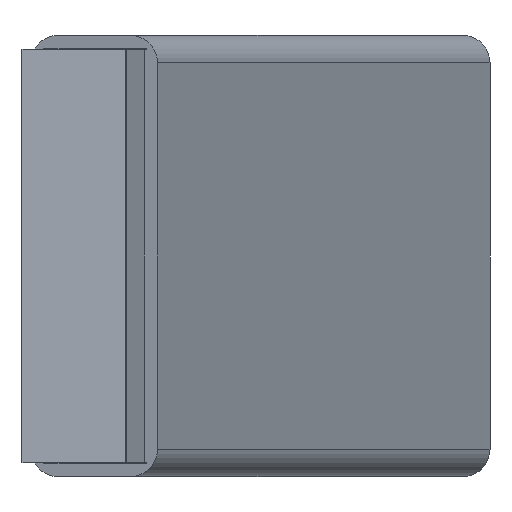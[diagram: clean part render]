
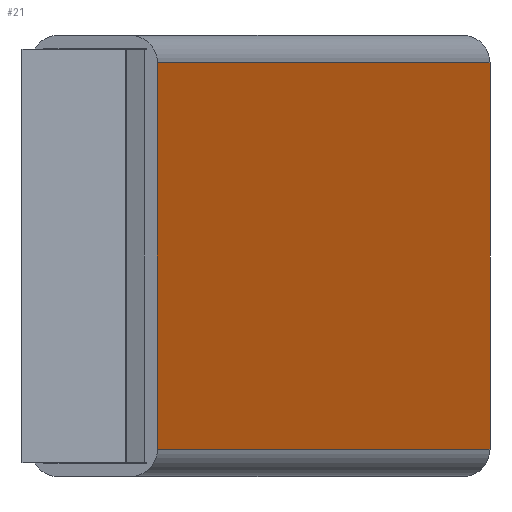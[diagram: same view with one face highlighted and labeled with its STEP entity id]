
A CAD part, left-side view. The second image highlights one B-rep face of the part: STEP entity #21.
In plain terms, the highlighted planar face has unit normal (-0.259, -0.966, 0).
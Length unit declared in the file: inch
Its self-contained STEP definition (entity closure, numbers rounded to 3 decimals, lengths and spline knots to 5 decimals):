
#21 = ADVANCED_FACE ( 'NONE', ( #1417 ), #625, .F. ) ;
#152 = DIRECTION ( 'NONE',  ( 0., 0., 1. ) ) ;
#210 = VECTOR ( 'NONE', #152, 39.37008 ) ;
#350 = CARTESIAN_POINT ( 'NONE',  ( 5.6629, -1.79715, -1.2 ) ) ;
#405 = VECTOR ( 'NONE', #965, 39.37008 ) ;
#465 = DIRECTION ( 'NONE',  ( 0.966, -0.259, 0. ) ) ;
#497 = DIRECTION ( 'NONE',  ( 0.259, 0.966, 0. ) ) ;
#520 = VERTEX_POINT ( 'NONE', #630 ) ;
#576 = EDGE_CURVE ( 'NONE', #1701, #626, #791, .T. ) ;
#625 = PLANE ( 'NONE',  #1775 ) ;
#626 = VERTEX_POINT ( 'NONE', #847 ) ;
#630 = CARTESIAN_POINT ( 'NONE',  ( 5.6629, -1.79715, 0.2 ) ) ;
#766 = VECTOR ( 'NONE', #465, 39.37008 ) ;
#791 = LINE ( 'NONE', #820, #405 ) ;
#799 = VERTEX_POINT ( 'NONE', #825 ) ;
#820 = CARTESIAN_POINT ( 'NONE',  ( 1.16168, -0.59105, -1.2 ) ) ;
#825 = CARTESIAN_POINT ( 'NONE',  ( 1.16168, -0.59105, 0.2 ) ) ;
#847 = CARTESIAN_POINT ( 'NONE',  ( 1.16168, -0.59105, -1.2 ) ) ;
#889 = CARTESIAN_POINT ( 'NONE',  ( 1.16168, -0.59105, 0.2 ) ) ;
#918 = VECTOR ( 'NONE', #1710, 39.37008 ) ;
#965 = DIRECTION ( 'NONE',  ( -0.966, 0.259, 0. ) ) ;
#979 = EDGE_CURVE ( 'NONE', #626, #799, #1028, .T. ) ;
#1012 = LINE ( 'NONE', #1567, #918 ) ;
#1028 = LINE ( 'NONE', #889, #210 ) ;
#1042 = CARTESIAN_POINT ( 'NONE',  ( 1.16168, -0.59105, 0.2 ) ) ;
#1156 = ORIENTED_EDGE ( 'NONE', *, *, #1451, .T. ) ;
#1266 = EDGE_LOOP ( 'NONE', ( #1525, #1726, #1455, #1156 ) ) ;
#1357 = CARTESIAN_POINT ( 'NONE',  ( 1.16168, -0.59105, 0.2 ) ) ;
#1417 = FACE_OUTER_BOUND ( 'NONE', #1266, .T. ) ;
#1451 = EDGE_CURVE ( 'NONE', #1701, #520, #1012, .T. ) ;
#1455 = ORIENTED_EDGE ( 'NONE', *, *, #576, .F. ) ;
#1499 = DIRECTION ( 'NONE',  ( -0.966, 0.259, 0. ) ) ;
#1525 = ORIENTED_EDGE ( 'NONE', *, *, #1624, .F. ) ;
#1535 = LINE ( 'NONE', #1042, #766 ) ;
#1567 = CARTESIAN_POINT ( 'NONE',  ( 5.6629, -1.79715, 0.2 ) ) ;
#1624 = EDGE_CURVE ( 'NONE', #799, #520, #1535, .T. ) ;
#1701 = VERTEX_POINT ( 'NONE', #350 ) ;
#1710 = DIRECTION ( 'NONE',  ( 0., 0., 1. ) ) ;
#1726 = ORIENTED_EDGE ( 'NONE', *, *, #979, .F. ) ;
#1775 = AXIS2_PLACEMENT_3D ( 'NONE', #1357, #497, #1499 ) ;
